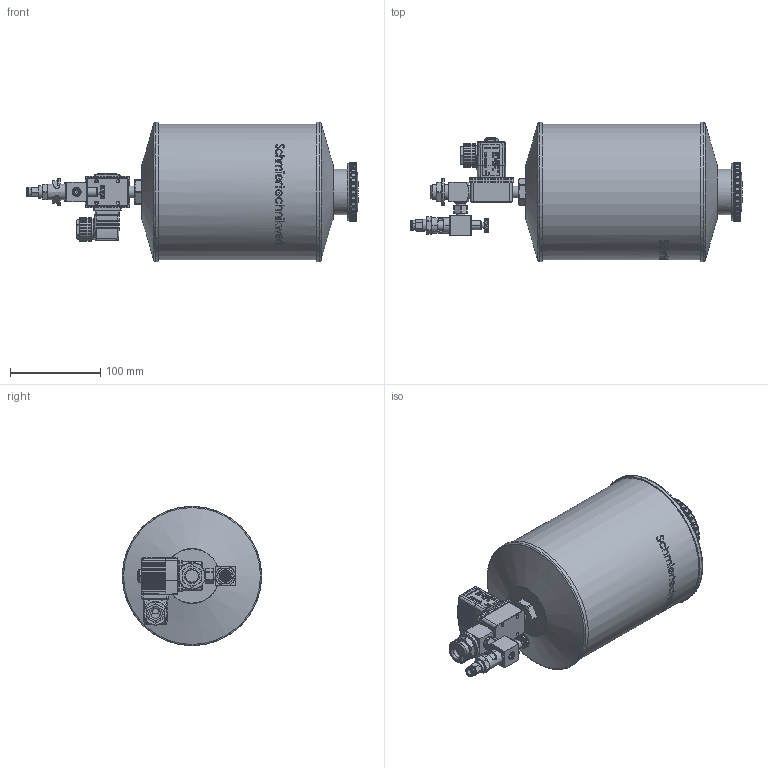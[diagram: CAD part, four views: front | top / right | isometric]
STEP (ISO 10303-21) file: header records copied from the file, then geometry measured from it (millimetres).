
FILE_DESCRIPTION (( 'STEP AP214' ), '1' );
FILE_NAME ('TRO_03_03_01_XXX.STEP', '2025-11-04T14:33:21', ( '' ), ( '' ), 'SwSTEP 2.0', 'SolidWorks 2022', '' );
FILE_SCHEMA (( 'AUTOMOTIVE_DESIGN' ));
Length unit declared in the file: millimetre
Products named in the file (18): TRO_2er_mittel; DR6_NEU; TRO_03_03_01_XXX; B200107_IPSO_01_6_18_22.05.2015(2); Verschlussstopfen_1_8; TRO_1_fach.SLDPRT; TRO_Endplatte; TRO_Magnetventil_aktuell; TRO_einfachMitte; R200107-N1; TRO_Magnetventil_ohne; OR 7.2X1.9_1; TRO_Behaelter_03; TRO_Magnetventil_Stecker
Assembly tree (12 placements, depth 4):
  TRO_2er_mittel
  TRO_03_03_01_XXX
    TRO_Magnetventil_aktuell
      TRO_Magnetventil_ohne
      TRO_Magnetventil_Stecker
    TRO_1_fach.SLDPRT
      TRO_2er_mittel
      TRO_einfachMitte
      B200107_IPSO_01_6_18_22.05.2015(2)
        OR 7.2X1.9_1
        DR6_NEU
        R200107-N1
      Verschlussstopfen_1_8
    TRO_Behaelter_03
  TRO_Endplatte
  DR6_NEU
  R200107-N1
Bounding box: 367.8 x 154.4 x 154.4 mm (x, y, z)
Volume: 484638.4 mm3; surface area: 345770.6 mm2
Topology: 12 solids, 20 shells, 5224 faces, 13699 edges, 8498 vertices
Faces by surface type: plane 2268, bspline 1796, cylinder 617, cone 540, torus 3
Full cylindrical faces by diameter (mm): 3.5 x4, 4.2 x1, 5.5 x4, 6 x1, 6.1 x1, 6.2 x1, 6.25 x1, 6.75 x1, 7 x1, 7.4 x1, 8 x2, 8.3 x2, 8.4 x1, 8.5 x1, 9 x2, 9.2 x1, 9.5 x1, 9.6 x1, 9.7 x1, 9.728 x1, 9.8 x1, 10 x4, 10.1 x1, 10.2 x1, 10.5 x2, 10.8 x1, 11 x4, 11.2 x1, 11.5 x4, 12 x1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
Entity records: 260353 total; most frequent: CARTESIAN_POINT 151493, ORIENTED_EDGE 26564, DIRECTION 16212, EDGE_CURVE 13329, VERTEX_POINT 8401, AXIS2_PLACEMENT_3D 5990, EDGE_LOOP 5607, B_SPLINE_CURVE_WITH_KNOTS 5528
